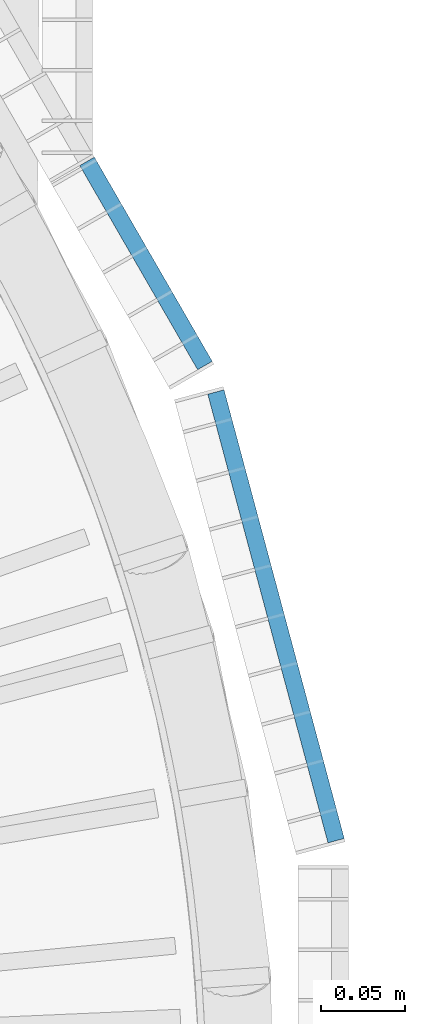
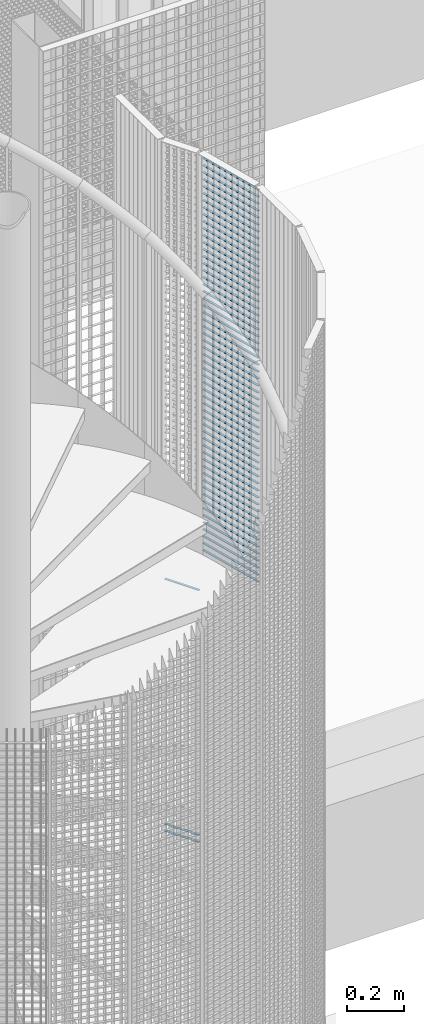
# One storey, part 264 of 1148: 60 beams, 2 elements without a shape of their own.
"""IFC2X3 building model written with IfcOpenShell, lengths in millimetres."""

import ifcopenshell
import ifcopenshell.guid

model = None  # the IFC model being written
_history = None  # IfcOwnerHistory: only IFC2X3 demands one
_inside = {}  # id of a spatial element -> (the spatial element, [elements in it])
_under = {}  # id of a project, library or spatial element -> (it, [spatial elements below it])
_declared = {}  # id of a project -> (the project, [libraries it declares])
_typed = {}  # id of a type object -> (the type object, [elements of that type])
_made_of = {}  # id of a material, layer set ... -> (it, [elements and type objects made of it])


def new_model(schema):
    """Start an empty IFC model of exactly this schema.

    Asked for "IFC4X3", IfcOpenShell would pick the latest addendum, in which some entities
    have other attributes; the version numbers below select the first issue.
    IFC2X3 requires an IfcOwnerHistory on every rooted entity: one is made here for all.
    """
    global model, _history
    if schema == "IFC4X3":
        model = ifcopenshell.file(schema_version=(4, 3, 0, 0))
    else:
        model = ifcopenshell.file(schema=schema)
    _inside.clear()
    _under.clear()
    _declared.clear()
    _typed.clear()
    _made_of.clear()
    _history = None
    if model.schema == "IFC2X3":
        org = make("IfcOrganization", Name="unknown")
        user = make(
            "IfcPersonAndOrganization",
            ThePerson=make("IfcPerson", FamilyName="unknown"),
            TheOrganization=org,
        )
        app = make(
            "IfcApplication",
            ApplicationDeveloper=org,
            Version="unknown",
            ApplicationFullName="unknown",
            ApplicationIdentifier="unknown",
        )
        _history = make(
            "IfcOwnerHistory",
            OwningUser=user,
            OwningApplication=app,
            ChangeAction="ADDED",
            CreationDate=0,
        )
    return model


def make(cls, **values):
    """One entity of the class cls with the attributes given. An attribute that is None is left unset."""
    return model.create_entity(
        cls, **{name: value for name, value in values.items() if value is not None}
    )


def rooted(cls, **values):
    """An entity with a GlobalId (a new one), such as an element, a storey or a relation."""
    return make(cls, GlobalId=ifcopenshell.guid.new(), OwnerHistory=_history, **values)


def si_unit(unit_type, name, prefix=None):
    """IfcSIUnit, for example si_unit("LENGTHUNIT", "METRE", prefix="MILLI")."""
    return make("IfcSIUnit", UnitType=unit_type, Prefix=prefix, Name=name)


def assignment(units):
    """IfcUnitAssignment: the units of a project."""
    return None if units is None else make("IfcUnitAssignment", Units=units)


def point(xyz):
    """IfcCartesianPoint."""
    return None if xyz is None else make("IfcCartesianPoint", Coordinates=xyz)


def direction(xyz):
    """IfcDirection."""
    return None if xyz is None else make("IfcDirection", DirectionRatios=xyz)


def frame(location, z_axis=None, x_axis=None):
    """IfcAxis2Placement3D, a coordinate frame: its origin and axes. An axis left out is left unset."""
    return make(
        "IfcAxis2Placement3D",
        Location=point(location),
        Axis=direction(z_axis),
        RefDirection=direction(x_axis),
    )


def frame_2d(location, x_axis=None):
    """IfcAxis2Placement2D, a coordinate frame in the plane: its origin and x axis."""
    return make(
        "IfcAxis2Placement2D", Location=point(location), RefDirection=direction(x_axis)
    )


def origin_with_axes():
    """The frame at (0, 0, 0) with the z axis (0, 0, 1) and the x axis (1, 0, 0) written out."""
    return frame((0.0, 0.0, 0.0), z_axis=(0.0, 0.0, 1.0), x_axis=(1.0, 0.0, 0.0))


def origin_2d_with_axis():
    """The frame at (0, 0) in the plane with the x axis (1, 0) written out."""
    return frame_2d((0.0, 0.0), x_axis=(1.0, 0.0))


def place(relative_to, where):
    """IfcLocalPlacement: puts the frame where relative to a parent placement (None: the world)."""
    return make(
        "IfcLocalPlacement", PlacementRelTo=relative_to, RelativePlacement=where
    )


def context(
    kind, dimensions, precision=None, world=None, true_north=None, identifier=None
):
    """IfcGeometricRepresentationContext, for example the 3D "Model" context."""
    return make(
        "IfcGeometricRepresentationContext",
        ContextIdentifier=identifier,
        ContextType=kind,
        CoordinateSpaceDimension=dimensions,
        Precision=precision,
        WorldCoordinateSystem=world,
        TrueNorth=true_north,
    )


def subcontext(parent, identifier, kind, view, scale=None):
    """IfcGeometricRepresentationSubContext, for example "Body" below "Model"."""
    return make(
        "IfcGeometricRepresentationSubContext",
        ContextIdentifier=identifier,
        ContextType=kind,
        ParentContext=parent,
        TargetScale=scale,
        TargetView=view,
    )


def project(units=None, contexts=None):
    """IfcProject with its units and contexts."""
    return rooted(
        "IfcProject",
        Name="project",
        RepresentationContexts=contexts,
        UnitsInContext=assignment(units),
    )


def spatial(cls, under=None, at=None, **own):
    """A site, building, storey or space (cls), placed at a placement, below another one or the project."""
    s = rooted(cls, ObjectPlacement=at, **own)
    if under is not None:
        _under.setdefault(under.id(), (under, []))[1].append(s)
    return s


def profile(cls, at=None, kind="AREA", **sizes):
    """A parametric profile (cls). Its sizes go by their IFC names, for example OverallWidth=200.0."""
    return make(cls, ProfileType=kind, Position=at, **sizes)


def rectangle(**sizes):
    """IfcRectangleProfileDef."""
    return profile("IfcRectangleProfileDef", **sizes)


def extrude(swept, where, along, depth):
    """IfcExtrudedAreaSolid: the profile swept, set in the frame where, extruded along a direction by depth."""
    return make(
        "IfcExtrudedAreaSolid",
        SweptArea=swept,
        Position=where,
        ExtrudedDirection=direction(along),
        Depth=depth,
    )


def shape(context_of_items, identifier, shape_type, items):
    """IfcShapeRepresentation: the items that make up one representation, for example the "Body"."""
    return make(
        "IfcShapeRepresentation",
        ContextOfItems=context_of_items,
        RepresentationIdentifier=identifier,
        RepresentationType=shape_type,
        Items=items,
    )


def material(Name=None, Category=None):
    """IfcMaterial."""
    return make("IfcMaterial", Name=Name, Category=Category)


def made_of(thing, what):
    """Note that an element or type object is made of a material, layer set ...; save() writes the relation."""
    if what is not None:
        _made_of.setdefault(what.id(), (what, []))[1].append(thing)
    return thing


def type_object(cls, material=None, **own):
    """A type object (cls), such as IfcWallType, which elements share."""
    return made_of(rooted(cls, **own), material)


def element(
    cls,
    number,
    at=None,
    inside=None,
    cuts=None,
    type_object=None,
    material=None,
    context=None,
    identifier="Body",
    shape_type=None,
    held_by="IfcProductDefinitionShape",
    body=None,
    shapes=None,
    **own,
):
    """One element of the class cls, such as IfcWall. Its Tag is "e" and its number.

    at: its placement. inside: the storey or other place that contains it. cuts: it is an
    opening in that element (IfcRelVoidsElement). A single representation is given by context,
    identifier, shape_type and body (its items); several are given by shapes. held_by: the class
    of the entity that holds the representations. save() writes the other relations.
    """
    e = rooted(cls, Tag="e%d" % number, ObjectPlacement=at, **own)
    if body is not None:
        shapes = [shape(context, identifier, shape_type, body)]
    if shapes is not None:
        e.Representation = make(held_by, Representations=shapes)
    if inside is not None:
        _inside.setdefault(inside.id(), (inside, []))[1].append(e)
    if cuts is not None:
        rooted(
            "IfcRelVoidsElement", RelatingBuildingElement=cuts, RelatedOpeningElement=e
        )
    if type_object is not None:
        _typed.setdefault(type_object.id(), (type_object, []))[1].append(e)
    return made_of(e, material)


def aggregate(whole, parts):
    """IfcRelAggregates: a whole, such as a stair, and the parts it consists of."""
    return rooted("IfcRelAggregates", RelatingObject=whole, RelatedObjects=parts)


def save(model, path):
    """Write the relations noted so far, then the file.

    IfcRelAggregates (storeys below a building ...), IfcRelContainedInSpatialStructure (elements
    in a storey), IfcRelDefinesByType, IfcRelAssociatesMaterial and IfcRelDeclares: one each for
    every whole, place, type object, material and project.
    """
    for whole, parts in _under.values():
        aggregate(whole, parts)
    for where, things in _inside.values():
        rooted(
            "IfcRelContainedInSpatialStructure",
            RelatedElements=things,
            RelatingStructure=where,
        )
    for kind, things in _typed.values():
        rooted("IfcRelDefinesByType", RelatedObjects=things, RelatingType=kind)
    for what, things in _made_of.values():
        rooted("IfcRelAssociatesMaterial", RelatedObjects=things, RelatingMaterial=what)
    for by, libraries in _declared.values():
        rooted("IfcRelDeclares", RelatingContext=by, RelatedDefinitions=libraries)
    model.write(path)


model = new_model("IFC2X3")

# Units and contexts
model_context = context("Model", 3, precision=1e-05, world=origin_with_axes())
body_context = subcontext(model_context, "Body", "Model", "MODEL_VIEW")
ifc_project = project(units=[si_unit("LENGTHUNIT", "METRE", prefix="MILLI"), si_unit("AREAUNIT", "SQUARE_METRE"), si_unit("VOLUMEUNIT", "CUBIC_METRE"), si_unit("MASSUNIT", "GRAM", prefix="KILO"), si_unit("TIMEUNIT", "SECOND"), si_unit("PLANEANGLEUNIT", "RADIAN"), si_unit("SOLIDANGLEUNIT", "STERADIAN"), si_unit("THERMODYNAMICTEMPERATUREUNIT", "DEGREE_CELSIUS"), si_unit("LUMINOUSINTENSITYUNIT", "LUMEN")], contexts=[model_context])

# Site, building, storey
site_placement = place(None, origin_with_axes())
site = spatial("IfcSite", under=ifc_project, at=site_placement, Name="Undefined", CompositionType="ELEMENT")
building_placement = place(site_placement, origin_with_axes())
building = spatial("IfcBuilding", under=site, at=building_placement, Name="Undefined", CompositionType="ELEMENT")
storey_placement = place(building_placement, origin_with_axes())
storey = spatial("IfcBuildingStorey", under=building, at=storey_placement, Name="Undefined", CompositionType="ELEMENT", Elevation=0.0)

# Assembly, beams
assembly_1_placement = place(storey_placement, origin_with_axes())
assembly_1 = element("IfcElementAssembly", 1, at=assembly_1_placement, inside=storey, Name="BORDURE", AssemblyPlace="NOTDEFINED", PredefinedType="NOTDEFINED")
ifc_material = material(Name="STEEL/S235JR")
beam_type = type_object("IfcBeamType", Name="PL2*10", PredefinedType="NOTDEFINED")
beam_1_placement = place(assembly_1_placement, frame((1033.2999428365, 437.231999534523, 15060.0), z_axis=(0.866030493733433, 0.499991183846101, 0.0), x_axis=(-0.499991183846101, 0.866030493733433, 0.0)))
beam_1 = element("IfcBeam", 2, at=beam_1_placement, type_object=beam_type, material=ifc_material, Name="ENTRETOISE", context=body_context, shape_type="SweptSolid", body=[
    extrude(rectangle(XDim=2.0, YDim=10.0, at=origin_2d_with_axis()), frame((140.102470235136, 0.0, 0.0), z_axis=(-1.0, 0.0, 0.0), x_axis=(0.0, -1.0, 0.0)), (0.0, 0.0, 1.0), 140.1),
])
beam_2_placement = place(assembly_1_placement, frame((1033.29994283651, 437.23199953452, 16110.0), z_axis=(0.866030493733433, 0.499991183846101, 0.0), x_axis=(-0.499991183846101, 0.866030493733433, 0.0)))
beam_2 = element("IfcBeam", 3, at=beam_2_placement, type_object=beam_type, material=ifc_material, Name="ENTRETOISE", context=body_context, shape_type="SweptSolid", body=[
    extrude(rectangle(XDim=2.0, YDim=10.0, at=origin_2d_with_axis()), frame((140.102470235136, 0.0, 0.0), z_axis=(-1.0, 0.0, 0.0), x_axis=(0.0, -1.0, 0.0)), (0.0, 0.0, 1.0), 140.1),
])
beam_3_placement = place(assembly_1_placement, frame((1033.2999428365, 437.231999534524, 15030.0), z_axis=(0.866030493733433, 0.499991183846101, 0.0), x_axis=(-0.499991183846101, 0.866030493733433, 0.0)))
beam_3 = element("IfcBeam", 4, at=beam_3_placement, type_object=beam_type, material=ifc_material, Name="ENTRETOISE", context=body_context, shape_type="SweptSolid", body=[
    extrude(rectangle(XDim=2.0, YDim=10.0, at=origin_2d_with_axis()), frame((140.102470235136, 0.0, 0.0), z_axis=(-1.0, 0.0, 0.0), x_axis=(0.0, -1.0, 0.0)), (0.0, 0.0, 1.0), 140.1),
])
aggregate(assembly_1, [beam_1, beam_2, beam_3])

assembly_2_placement = place(storey_placement, origin_with_axes())
assembly_2 = element("IfcElementAssembly", 5, at=assembly_2_placement, inside=storey, Name="BORDURE", AssemblyPlace="NOTDEFINED", PredefinedType="NOTDEFINED")
beam_4_placement = place(assembly_2_placement, frame((1111.25508286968, 154.895926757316, 17970.0), z_axis=(0.965925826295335, 0.258819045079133, 0.0), x_axis=(-0.258819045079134, 0.965925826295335, 0.0)))
beam_4 = element("IfcBeam", 6, at=beam_4_placement, type_object=beam_type, material=ifc_material, Name="ENTRETOISE", context=body_context, shape_type="SweptSolid", body=[
    extrude(rectangle(XDim=2.0, YDim=10.0, at=origin_2d_with_axis()), frame((275.999999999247, 9.09494701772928e-13, 1.53210777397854e-14), z_axis=(-1.0, 0.0, 0.0), x_axis=(0.0, -1.0, 0.0)), (0.0, 0.0, 1.0), 276.0),
])
beam_5_placement = place(assembly_2_placement, frame((1111.25508286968, 154.895926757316, 17940.0), z_axis=(0.965925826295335, 0.258819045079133, 0.0), x_axis=(-0.258819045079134, 0.965925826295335, 0.0)))
beam_5 = element("IfcBeam", 7, at=beam_5_placement, type_object=beam_type, material=ifc_material, Name="ENTRETOISE", context=body_context, shape_type="SweptSolid", body=[
    extrude(rectangle(XDim=2.0, YDim=10.0, at=origin_2d_with_axis()), frame((275.999999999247, 9.09494701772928e-13, 1.53210777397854e-14), z_axis=(-1.0, 0.0, 0.0), x_axis=(0.0, -1.0, 0.0)), (0.0, 0.0, 1.0), 276.0),
])
beam_6_placement = place(assembly_2_placement, frame((1111.25508286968, 154.895926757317, 17910.0), z_axis=(0.965925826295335, 0.258819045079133, 0.0), x_axis=(-0.258819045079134, 0.965925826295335, 0.0)))
beam_6 = element("IfcBeam", 8, at=beam_6_placement, type_object=beam_type, material=ifc_material, Name="ENTRETOISE", context=body_context, shape_type="SweptSolid", body=[
    extrude(rectangle(XDim=2.0, YDim=10.0, at=origin_2d_with_axis()), frame((275.999999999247, 9.09494701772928e-13, 1.53210777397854e-14), z_axis=(-1.0, 0.0, 0.0), x_axis=(0.0, -1.0, 0.0)), (0.0, 0.0, 1.0), 276.0),
])
beam_7_placement = place(assembly_2_placement, frame((1111.25508286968, 154.895926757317, 17880.0), z_axis=(0.965925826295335, 0.258819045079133, 0.0), x_axis=(-0.258819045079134, 0.965925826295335, 0.0)))
beam_7 = element("IfcBeam", 9, at=beam_7_placement, type_object=beam_type, material=ifc_material, Name="ENTRETOISE", context=body_context, shape_type="SweptSolid", body=[
    extrude(rectangle(XDim=2.0, YDim=10.0, at=origin_2d_with_axis()), frame((275.999999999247, 9.09494701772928e-13, 1.53210777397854e-14), z_axis=(-1.0, 0.0, 0.0), x_axis=(0.0, -1.0, 0.0)), (0.0, 0.0, 1.0), 276.0),
])
beam_8_placement = place(assembly_2_placement, frame((1111.25508286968, 154.895926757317, 17850.0), z_axis=(0.965925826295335, 0.258819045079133, 0.0), x_axis=(-0.258819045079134, 0.965925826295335, 0.0)))
beam_8 = element("IfcBeam", 10, at=beam_8_placement, type_object=beam_type, material=ifc_material, Name="ENTRETOISE", context=body_context, shape_type="SweptSolid", body=[
    extrude(rectangle(XDim=2.0, YDim=10.0, at=origin_2d_with_axis()), frame((275.999999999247, 9.09494701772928e-13, 1.53210777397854e-14), z_axis=(-1.0, 0.0, 0.0), x_axis=(0.0, -1.0, 0.0)), (0.0, 0.0, 1.0), 276.0),
])
beam_9_placement = place(assembly_2_placement, frame((1111.25508286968, 154.895926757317, 17820.0), z_axis=(0.965925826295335, 0.258819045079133, 0.0), x_axis=(-0.258819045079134, 0.965925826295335, 0.0)))
beam_9 = element("IfcBeam", 11, at=beam_9_placement, type_object=beam_type, material=ifc_material, Name="ENTRETOISE", context=body_context, shape_type="SweptSolid", body=[
    extrude(rectangle(XDim=2.0, YDim=10.0, at=origin_2d_with_axis()), frame((275.999999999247, 9.09494701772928e-13, 1.53210777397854e-14), z_axis=(-1.0, 0.0, 0.0), x_axis=(0.0, -1.0, 0.0)), (0.0, 0.0, 1.0), 276.0),
])
beam_10_placement = place(assembly_2_placement, frame((1111.25508286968, 154.895926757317, 17790.0), z_axis=(0.965925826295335, 0.258819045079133, 0.0), x_axis=(-0.258819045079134, 0.965925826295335, 0.0)))
beam_10 = element("IfcBeam", 12, at=beam_10_placement, type_object=beam_type, material=ifc_material, Name="ENTRETOISE", context=body_context, shape_type="SweptSolid", body=[
    extrude(rectangle(XDim=2.0, YDim=10.0, at=origin_2d_with_axis()), frame((275.999999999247, 9.09494701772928e-13, 1.53210777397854e-14), z_axis=(-1.0, 0.0, 0.0), x_axis=(0.0, -1.0, 0.0)), (0.0, 0.0, 1.0), 276.0),
])
beam_11_placement = place(assembly_2_placement, frame((1111.25508286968, 154.895926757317, 17760.0), z_axis=(0.965925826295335, 0.258819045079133, 0.0), x_axis=(-0.258819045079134, 0.965925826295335, 0.0)))
beam_11 = element("IfcBeam", 13, at=beam_11_placement, type_object=beam_type, material=ifc_material, Name="ENTRETOISE", context=body_context, shape_type="SweptSolid", body=[
    extrude(rectangle(XDim=2.0, YDim=10.0, at=origin_2d_with_axis()), frame((275.999999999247, 9.09494701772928e-13, 1.53210777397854e-14), z_axis=(-1.0, 0.0, 0.0), x_axis=(0.0, -1.0, 0.0)), (0.0, 0.0, 1.0), 276.0),
])
beam_12_placement = place(assembly_2_placement, frame((1111.25508286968, 154.895926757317, 17730.0), z_axis=(0.965925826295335, 0.258819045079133, 0.0), x_axis=(-0.258819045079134, 0.965925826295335, 0.0)))
beam_12 = element("IfcBeam", 14, at=beam_12_placement, type_object=beam_type, material=ifc_material, Name="ENTRETOISE", context=body_context, shape_type="SweptSolid", body=[
    extrude(rectangle(XDim=2.0, YDim=10.0, at=origin_2d_with_axis()), frame((275.999999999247, 9.09494701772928e-13, 1.53210777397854e-14), z_axis=(-1.0, 0.0, 0.0), x_axis=(0.0, -1.0, 0.0)), (0.0, 0.0, 1.0), 276.0),
])
beam_13_placement = place(assembly_2_placement, frame((1111.25508286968, 154.895926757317, 17700.0), z_axis=(0.965925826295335, 0.258819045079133, 0.0), x_axis=(-0.258819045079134, 0.965925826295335, 0.0)))
beam_13 = element("IfcBeam", 15, at=beam_13_placement, type_object=beam_type, material=ifc_material, Name="ENTRETOISE", context=body_context, shape_type="SweptSolid", body=[
    extrude(rectangle(XDim=2.0, YDim=10.0, at=origin_2d_with_axis()), frame((275.999999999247, 9.09494701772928e-13, 1.53210777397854e-14), z_axis=(-1.0, 0.0, 0.0), x_axis=(0.0, -1.0, 0.0)), (0.0, 0.0, 1.0), 276.0),
])
beam_14_placement = place(assembly_2_placement, frame((1111.25508286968, 154.895926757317, 17670.0), z_axis=(0.965925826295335, 0.258819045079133, 0.0), x_axis=(-0.258819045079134, 0.965925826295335, 0.0)))
beam_14 = element("IfcBeam", 16, at=beam_14_placement, type_object=beam_type, material=ifc_material, Name="ENTRETOISE", context=body_context, shape_type="SweptSolid", body=[
    extrude(rectangle(XDim=2.0, YDim=10.0, at=origin_2d_with_axis()), frame((275.999999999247, 9.09494701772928e-13, 1.53210777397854e-14), z_axis=(-1.0, 0.0, 0.0), x_axis=(0.0, -1.0, 0.0)), (0.0, 0.0, 1.0), 276.0),
])
beam_15_placement = place(assembly_2_placement, frame((1111.25508286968, 154.895926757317, 17640.0), z_axis=(0.965925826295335, 0.258819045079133, 0.0), x_axis=(-0.258819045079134, 0.965925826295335, 0.0)))
beam_15 = element("IfcBeam", 17, at=beam_15_placement, type_object=beam_type, material=ifc_material, Name="ENTRETOISE", context=body_context, shape_type="SweptSolid", body=[
    extrude(rectangle(XDim=2.0, YDim=10.0, at=origin_2d_with_axis()), frame((275.999999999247, 9.09494701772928e-13, 1.53210777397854e-14), z_axis=(-1.0, 0.0, 0.0), x_axis=(0.0, -1.0, 0.0)), (0.0, 0.0, 1.0), 276.0),
])
beam_16_placement = place(assembly_2_placement, frame((1111.25508286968, 154.895926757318, 17610.0), z_axis=(0.965925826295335, 0.258819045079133, 0.0), x_axis=(-0.258819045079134, 0.965925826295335, 0.0)))
beam_16 = element("IfcBeam", 18, at=beam_16_placement, type_object=beam_type, material=ifc_material, Name="ENTRETOISE", context=body_context, shape_type="SweptSolid", body=[
    extrude(rectangle(XDim=2.0, YDim=10.0, at=origin_2d_with_axis()), frame((275.999999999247, 9.09494701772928e-13, 1.53210777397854e-14), z_axis=(-1.0, 0.0, 0.0), x_axis=(0.0, -1.0, 0.0)), (0.0, 0.0, 1.0), 276.0),
])
beam_17_placement = place(assembly_2_placement, frame((1111.25508286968, 154.895926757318, 17580.0), z_axis=(0.965925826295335, 0.258819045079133, 0.0), x_axis=(-0.258819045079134, 0.965925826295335, 0.0)))
beam_17 = element("IfcBeam", 19, at=beam_17_placement, type_object=beam_type, material=ifc_material, Name="ENTRETOISE", context=body_context, shape_type="SweptSolid", body=[
    extrude(rectangle(XDim=2.0, YDim=10.0, at=origin_2d_with_axis()), frame((275.999999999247, 9.09494701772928e-13, 1.53210777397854e-14), z_axis=(-1.0, 0.0, 0.0), x_axis=(0.0, -1.0, 0.0)), (0.0, 0.0, 1.0), 276.0),
])
beam_18_placement = place(assembly_2_placement, frame((1111.25508286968, 154.895926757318, 17550.0), z_axis=(0.965925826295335, 0.258819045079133, 0.0), x_axis=(-0.258819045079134, 0.965925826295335, 0.0)))
beam_18 = element("IfcBeam", 20, at=beam_18_placement, type_object=beam_type, material=ifc_material, Name="ENTRETOISE", context=body_context, shape_type="SweptSolid", body=[
    extrude(rectangle(XDim=2.0, YDim=10.0, at=origin_2d_with_axis()), frame((275.999999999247, 9.09494701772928e-13, 1.53210777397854e-14), z_axis=(-1.0, 0.0, 0.0), x_axis=(0.0, -1.0, 0.0)), (0.0, 0.0, 1.0), 276.0),
])
beam_19_placement = place(assembly_2_placement, frame((1111.25508286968, 154.895926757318, 17520.0), z_axis=(0.965925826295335, 0.258819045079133, 0.0), x_axis=(-0.258819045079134, 0.965925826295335, 0.0)))
beam_19 = element("IfcBeam", 21, at=beam_19_placement, type_object=beam_type, material=ifc_material, Name="ENTRETOISE", context=body_context, shape_type="SweptSolid", body=[
    extrude(rectangle(XDim=2.0, YDim=10.0, at=origin_2d_with_axis()), frame((275.999999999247, 9.09494701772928e-13, 1.53210777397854e-14), z_axis=(-1.0, 0.0, 0.0), x_axis=(0.0, -1.0, 0.0)), (0.0, 0.0, 1.0), 276.0),
])
beam_20_placement = place(assembly_2_placement, frame((1111.25508286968, 154.895926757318, 17490.0), z_axis=(0.965925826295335, 0.258819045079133, 0.0), x_axis=(-0.258819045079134, 0.965925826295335, 0.0)))
beam_20 = element("IfcBeam", 22, at=beam_20_placement, type_object=beam_type, material=ifc_material, Name="ENTRETOISE", context=body_context, shape_type="SweptSolid", body=[
    extrude(rectangle(XDim=2.0, YDim=10.0, at=origin_2d_with_axis()), frame((275.999999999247, 9.09494701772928e-13, 1.53210777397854e-14), z_axis=(-1.0, 0.0, 0.0), x_axis=(0.0, -1.0, 0.0)), (0.0, 0.0, 1.0), 276.0),
])
beam_21_placement = place(assembly_2_placement, frame((1111.25508286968, 154.895926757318, 17460.0), z_axis=(0.965925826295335, 0.258819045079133, 0.0), x_axis=(-0.258819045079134, 0.965925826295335, 0.0)))
beam_21 = element("IfcBeam", 23, at=beam_21_placement, type_object=beam_type, material=ifc_material, Name="ENTRETOISE", context=body_context, shape_type="SweptSolid", body=[
    extrude(rectangle(XDim=2.0, YDim=10.0, at=origin_2d_with_axis()), frame((275.999999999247, 9.09494701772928e-13, 1.53210777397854e-14), z_axis=(-1.0, 0.0, 0.0), x_axis=(0.0, -1.0, 0.0)), (0.0, 0.0, 1.0), 276.0),
])
beam_22_placement = place(assembly_2_placement, frame((1111.25508286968, 154.895926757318, 17430.0), z_axis=(0.965925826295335, 0.258819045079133, 0.0), x_axis=(-0.258819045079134, 0.965925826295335, 0.0)))
beam_22 = element("IfcBeam", 24, at=beam_22_placement, type_object=beam_type, material=ifc_material, Name="ENTRETOISE", context=body_context, shape_type="SweptSolid", body=[
    extrude(rectangle(XDim=2.0, YDim=10.0, at=origin_2d_with_axis()), frame((275.999999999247, 9.09494701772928e-13, 1.53210777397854e-14), z_axis=(-1.0, 0.0, 0.0), x_axis=(0.0, -1.0, 0.0)), (0.0, 0.0, 1.0), 276.0),
])
beam_23_placement = place(assembly_2_placement, frame((1111.25508286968, 154.895926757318, 17400.0), z_axis=(0.965925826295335, 0.258819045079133, 0.0), x_axis=(-0.258819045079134, 0.965925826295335, 0.0)))
beam_23 = element("IfcBeam", 25, at=beam_23_placement, type_object=beam_type, material=ifc_material, Name="ENTRETOISE", context=body_context, shape_type="SweptSolid", body=[
    extrude(rectangle(XDim=2.0, YDim=10.0, at=origin_2d_with_axis()), frame((275.999999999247, 9.09494701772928e-13, 1.53210777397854e-14), z_axis=(-1.0, 0.0, 0.0), x_axis=(0.0, -1.0, 0.0)), (0.0, 0.0, 1.0), 276.0),
])
beam_24_placement = place(assembly_2_placement, frame((1111.25508286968, 154.895926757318, 17370.0), z_axis=(0.965925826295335, 0.258819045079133, 0.0), x_axis=(-0.258819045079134, 0.965925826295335, 0.0)))
beam_24 = element("IfcBeam", 26, at=beam_24_placement, type_object=beam_type, material=ifc_material, Name="ENTRETOISE", context=body_context, shape_type="SweptSolid", body=[
    extrude(rectangle(XDim=2.0, YDim=10.0, at=origin_2d_with_axis()), frame((275.999999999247, 9.09494701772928e-13, 1.53210777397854e-14), z_axis=(-1.0, 0.0, 0.0), x_axis=(0.0, -1.0, 0.0)), (0.0, 0.0, 1.0), 276.0),
])
beam_25_placement = place(assembly_2_placement, frame((1111.25508286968, 154.895926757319, 17340.0), z_axis=(0.965925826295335, 0.258819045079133, 0.0), x_axis=(-0.258819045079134, 0.965925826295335, 0.0)))
beam_25 = element("IfcBeam", 27, at=beam_25_placement, type_object=beam_type, material=ifc_material, Name="ENTRETOISE", context=body_context, shape_type="SweptSolid", body=[
    extrude(rectangle(XDim=2.0, YDim=10.0, at=origin_2d_with_axis()), frame((275.999999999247, 9.09494701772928e-13, 1.53210777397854e-14), z_axis=(-1.0, 0.0, 0.0), x_axis=(0.0, -1.0, 0.0)), (0.0, 0.0, 1.0), 276.0),
])
beam_26_placement = place(assembly_2_placement, frame((1111.25508286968, 154.895926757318, 17310.0), z_axis=(0.965925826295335, 0.258819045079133, 0.0), x_axis=(-0.258819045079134, 0.965925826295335, 0.0)))
beam_26 = element("IfcBeam", 28, at=beam_26_placement, type_object=beam_type, material=ifc_material, Name="ENTRETOISE", context=body_context, shape_type="SweptSolid", body=[
    extrude(rectangle(XDim=2.0, YDim=10.0, at=origin_2d_with_axis()), frame((275.999999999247, 9.09494701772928e-13, 1.53210777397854e-14), z_axis=(-1.0, 0.0, 0.0), x_axis=(0.0, -1.0, 0.0)), (0.0, 0.0, 1.0), 276.0),
])
beam_27_placement = place(assembly_2_placement, frame((1111.25508286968, 154.895926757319, 17280.0), z_axis=(0.965925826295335, 0.258819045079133, 0.0), x_axis=(-0.258819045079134, 0.965925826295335, 0.0)))
beam_27 = element("IfcBeam", 29, at=beam_27_placement, type_object=beam_type, material=ifc_material, Name="ENTRETOISE", context=body_context, shape_type="SweptSolid", body=[
    extrude(rectangle(XDim=2.0, YDim=10.0, at=origin_2d_with_axis()), frame((275.999999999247, 9.09494701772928e-13, 1.53210777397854e-14), z_axis=(-1.0, 0.0, 0.0), x_axis=(0.0, -1.0, 0.0)), (0.0, 0.0, 1.0), 276.0),
])
beam_28_placement = place(assembly_2_placement, frame((1111.25508286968, 154.895926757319, 17250.0), z_axis=(0.965925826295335, 0.258819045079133, 0.0), x_axis=(-0.258819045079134, 0.965925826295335, 0.0)))
beam_28 = element("IfcBeam", 30, at=beam_28_placement, type_object=beam_type, material=ifc_material, Name="ENTRETOISE", context=body_context, shape_type="SweptSolid", body=[
    extrude(rectangle(XDim=2.0, YDim=10.0, at=origin_2d_with_axis()), frame((275.999999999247, 9.09494701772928e-13, 1.53210777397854e-14), z_axis=(-1.0, 0.0, 0.0), x_axis=(0.0, -1.0, 0.0)), (0.0, 0.0, 1.0), 276.0),
])
beam_29_placement = place(assembly_2_placement, frame((1111.25508286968, 154.895926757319, 17220.0), z_axis=(0.965925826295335, 0.258819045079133, 0.0), x_axis=(-0.258819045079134, 0.965925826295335, 0.0)))
beam_29 = element("IfcBeam", 31, at=beam_29_placement, type_object=beam_type, material=ifc_material, Name="ENTRETOISE", context=body_context, shape_type="SweptSolid", body=[
    extrude(rectangle(XDim=2.0, YDim=10.0, at=origin_2d_with_axis()), frame((275.999999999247, 9.09494701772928e-13, 1.53210777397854e-14), z_axis=(-1.0, 0.0, 0.0), x_axis=(0.0, -1.0, 0.0)), (0.0, 0.0, 1.0), 276.0),
])
beam_30_placement = place(assembly_2_placement, frame((1111.25508286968, 154.895926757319, 17190.0), z_axis=(0.965925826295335, 0.258819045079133, 0.0), x_axis=(-0.258819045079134, 0.965925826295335, 0.0)))
beam_30 = element("IfcBeam", 32, at=beam_30_placement, type_object=beam_type, material=ifc_material, Name="ENTRETOISE", context=body_context, shape_type="SweptSolid", body=[
    extrude(rectangle(XDim=2.0, YDim=10.0, at=origin_2d_with_axis()), frame((275.999999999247, 9.09494701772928e-13, 1.53210777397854e-14), z_axis=(-1.0, 0.0, 0.0), x_axis=(0.0, -1.0, 0.0)), (0.0, 0.0, 1.0), 276.0),
])
beam_31_placement = place(assembly_2_placement, frame((1111.25508286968, 154.895926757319, 17160.0), z_axis=(0.965925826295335, 0.258819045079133, 0.0), x_axis=(-0.258819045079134, 0.965925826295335, 0.0)))
beam_31 = element("IfcBeam", 33, at=beam_31_placement, type_object=beam_type, material=ifc_material, Name="ENTRETOISE", context=body_context, shape_type="SweptSolid", body=[
    extrude(rectangle(XDim=2.0, YDim=10.0, at=origin_2d_with_axis()), frame((275.999999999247, 9.09494701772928e-13, 1.53210777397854e-14), z_axis=(-1.0, 0.0, 0.0), x_axis=(0.0, -1.0, 0.0)), (0.0, 0.0, 1.0), 276.0),
])
beam_32_placement = place(assembly_2_placement, frame((1111.25508286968, 154.895926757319, 17130.0), z_axis=(0.965925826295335, 0.258819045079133, 0.0), x_axis=(-0.258819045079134, 0.965925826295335, 0.0)))
beam_32 = element("IfcBeam", 34, at=beam_32_placement, type_object=beam_type, material=ifc_material, Name="ENTRETOISE", context=body_context, shape_type="SweptSolid", body=[
    extrude(rectangle(XDim=2.0, YDim=10.0, at=origin_2d_with_axis()), frame((275.999999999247, 9.09494701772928e-13, 1.53210777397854e-14), z_axis=(-1.0, 0.0, 0.0), x_axis=(0.0, -1.0, 0.0)), (0.0, 0.0, 1.0), 276.0),
])
beam_33_placement = place(assembly_2_placement, frame((1111.25508286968, 154.895926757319, 17100.0), z_axis=(0.965925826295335, 0.258819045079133, 0.0), x_axis=(-0.258819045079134, 0.965925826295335, 0.0)))
beam_33 = element("IfcBeam", 35, at=beam_33_placement, type_object=beam_type, material=ifc_material, Name="ENTRETOISE", context=body_context, shape_type="SweptSolid", body=[
    extrude(rectangle(XDim=2.0, YDim=10.0, at=origin_2d_with_axis()), frame((275.999999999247, 9.09494701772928e-13, 1.53210777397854e-14), z_axis=(-1.0, 0.0, 0.0), x_axis=(0.0, -1.0, 0.0)), (0.0, 0.0, 1.0), 276.0),
])
beam_34_placement = place(assembly_2_placement, frame((1111.25508286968, 154.895926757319, 17070.0), z_axis=(0.965925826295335, 0.258819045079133, 0.0), x_axis=(-0.258819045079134, 0.965925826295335, 0.0)))
beam_34 = element("IfcBeam", 36, at=beam_34_placement, type_object=beam_type, material=ifc_material, Name="ENTRETOISE", context=body_context, shape_type="SweptSolid", body=[
    extrude(rectangle(XDim=2.0, YDim=10.0, at=origin_2d_with_axis()), frame((275.999999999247, 9.09494701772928e-13, 1.53210777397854e-14), z_axis=(-1.0, 0.0, 0.0), x_axis=(0.0, -1.0, 0.0)), (0.0, 0.0, 1.0), 276.0),
])
beam_35_placement = place(assembly_2_placement, frame((1111.25508286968, 154.89592675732, 17040.0), z_axis=(0.965925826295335, 0.258819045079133, 0.0), x_axis=(-0.258819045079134, 0.965925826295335, 0.0)))
beam_35 = element("IfcBeam", 37, at=beam_35_placement, type_object=beam_type, material=ifc_material, Name="ENTRETOISE", context=body_context, shape_type="SweptSolid", body=[
    extrude(rectangle(XDim=2.0, YDim=10.0, at=origin_2d_with_axis()), frame((275.999999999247, 9.09494701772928e-13, 1.53210777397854e-14), z_axis=(-1.0, 0.0, 0.0), x_axis=(0.0, -1.0, 0.0)), (0.0, 0.0, 1.0), 276.0),
])
beam_36_placement = place(assembly_2_placement, frame((1111.25508286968, 154.89592675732, 17010.0), z_axis=(0.965925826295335, 0.258819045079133, 0.0), x_axis=(-0.258819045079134, 0.965925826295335, 0.0)))
beam_36 = element("IfcBeam", 38, at=beam_36_placement, type_object=beam_type, material=ifc_material, Name="ENTRETOISE", context=body_context, shape_type="SweptSolid", body=[
    extrude(rectangle(XDim=2.0, YDim=10.0, at=origin_2d_with_axis()), frame((275.999999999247, 9.09494701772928e-13, 1.53210777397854e-14), z_axis=(-1.0, 0.0, 0.0), x_axis=(0.0, -1.0, 0.0)), (0.0, 0.0, 1.0), 276.0),
])
beam_37_placement = place(assembly_2_placement, frame((1111.25508286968, 154.89592675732, 16980.0), z_axis=(0.965925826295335, 0.258819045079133, 0.0), x_axis=(-0.258819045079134, 0.965925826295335, 0.0)))
beam_37 = element("IfcBeam", 39, at=beam_37_placement, type_object=beam_type, material=ifc_material, Name="ENTRETOISE", context=body_context, shape_type="SweptSolid", body=[
    extrude(rectangle(XDim=2.0, YDim=10.0, at=origin_2d_with_axis()), frame((275.999999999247, 9.09494701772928e-13, 1.53210777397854e-14), z_axis=(-1.0, 0.0, 0.0), x_axis=(0.0, -1.0, 0.0)), (0.0, 0.0, 1.0), 276.0),
])
beam_38_placement = place(assembly_2_placement, frame((1111.25508286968, 154.89592675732, 16950.0), z_axis=(0.965925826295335, 0.258819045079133, 0.0), x_axis=(-0.258819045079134, 0.965925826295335, 0.0)))
beam_38 = element("IfcBeam", 40, at=beam_38_placement, type_object=beam_type, material=ifc_material, Name="ENTRETOISE", context=body_context, shape_type="SweptSolid", body=[
    extrude(rectangle(XDim=2.0, YDim=10.0, at=origin_2d_with_axis()), frame((275.999999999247, 9.09494701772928e-13, 1.53210777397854e-14), z_axis=(-1.0, 0.0, 0.0), x_axis=(0.0, -1.0, 0.0)), (0.0, 0.0, 1.0), 276.0),
])
beam_39_placement = place(assembly_2_placement, frame((1111.25508286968, 154.89592675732, 16920.0), z_axis=(0.965925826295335, 0.258819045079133, 0.0), x_axis=(-0.258819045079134, 0.965925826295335, 0.0)))
beam_39 = element("IfcBeam", 41, at=beam_39_placement, type_object=beam_type, material=ifc_material, Name="ENTRETOISE", context=body_context, shape_type="SweptSolid", body=[
    extrude(rectangle(XDim=2.0, YDim=10.0, at=origin_2d_with_axis()), frame((275.999999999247, 9.09494701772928e-13, 1.53210777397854e-14), z_axis=(-1.0, 0.0, 0.0), x_axis=(0.0, -1.0, 0.0)), (0.0, 0.0, 1.0), 276.0),
])
beam_40_placement = place(assembly_2_placement, frame((1111.25508286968, 154.89592675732, 16890.0), z_axis=(0.965925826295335, 0.258819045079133, 0.0), x_axis=(-0.258819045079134, 0.965925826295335, 0.0)))
beam_40 = element("IfcBeam", 42, at=beam_40_placement, type_object=beam_type, material=ifc_material, Name="ENTRETOISE", context=body_context, shape_type="SweptSolid", body=[
    extrude(rectangle(XDim=2.0, YDim=10.0, at=origin_2d_with_axis()), frame((275.999999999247, 9.09494701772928e-13, 1.53210777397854e-14), z_axis=(-1.0, 0.0, 0.0), x_axis=(0.0, -1.0, 0.0)), (0.0, 0.0, 1.0), 276.0),
])
beam_41_placement = place(assembly_2_placement, frame((1111.25508286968, 154.89592675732, 16860.0), z_axis=(0.965925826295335, 0.258819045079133, 0.0), x_axis=(-0.258819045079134, 0.965925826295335, 0.0)))
beam_41 = element("IfcBeam", 43, at=beam_41_placement, type_object=beam_type, material=ifc_material, Name="ENTRETOISE", context=body_context, shape_type="SweptSolid", body=[
    extrude(rectangle(XDim=2.0, YDim=10.0, at=origin_2d_with_axis()), frame((275.999999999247, 9.09494701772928e-13, 1.53210777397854e-14), z_axis=(-1.0, 0.0, 0.0), x_axis=(0.0, -1.0, 0.0)), (0.0, 0.0, 1.0), 276.0),
])
beam_42_placement = place(assembly_2_placement, frame((1111.25508286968, 154.89592675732, 16830.0), z_axis=(0.965925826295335, 0.258819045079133, 0.0), x_axis=(-0.258819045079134, 0.965925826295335, 0.0)))
beam_42 = element("IfcBeam", 44, at=beam_42_placement, type_object=beam_type, material=ifc_material, Name="ENTRETOISE", context=body_context, shape_type="SweptSolid", body=[
    extrude(rectangle(XDim=2.0, YDim=10.0, at=origin_2d_with_axis()), frame((275.999999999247, 9.09494701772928e-13, 1.53210777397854e-14), z_axis=(-1.0, 0.0, 0.0), x_axis=(0.0, -1.0, 0.0)), (0.0, 0.0, 1.0), 276.0),
])
beam_43_placement = place(assembly_2_placement, frame((1111.25508286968, 154.89592675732, 16800.0), z_axis=(0.965925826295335, 0.258819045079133, 0.0), x_axis=(-0.258819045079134, 0.965925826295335, 0.0)))
beam_43 = element("IfcBeam", 45, at=beam_43_placement, type_object=beam_type, material=ifc_material, Name="ENTRETOISE", context=body_context, shape_type="SweptSolid", body=[
    extrude(rectangle(XDim=2.0, YDim=10.0, at=origin_2d_with_axis()), frame((275.999999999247, 9.09494701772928e-13, 1.53210777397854e-14), z_axis=(-1.0, 0.0, 0.0), x_axis=(0.0, -1.0, 0.0)), (0.0, 0.0, 1.0), 276.0),
])
beam_44_placement = place(assembly_2_placement, frame((1111.25508286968, 154.89592675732, 16770.0), z_axis=(0.965925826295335, 0.258819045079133, 0.0), x_axis=(-0.258819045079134, 0.965925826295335, 0.0)))
beam_44 = element("IfcBeam", 46, at=beam_44_placement, type_object=beam_type, material=ifc_material, Name="ENTRETOISE", context=body_context, shape_type="SweptSolid", body=[
    extrude(rectangle(XDim=2.0, YDim=10.0, at=origin_2d_with_axis()), frame((275.999999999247, 9.09494701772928e-13, 1.53210777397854e-14), z_axis=(-1.0, 0.0, 0.0), x_axis=(0.0, -1.0, 0.0)), (0.0, 0.0, 1.0), 276.0),
])
beam_45_placement = place(assembly_2_placement, frame((1111.25508286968, 154.89592675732, 16740.0), z_axis=(0.965925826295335, 0.258819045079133, 0.0), x_axis=(-0.258819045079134, 0.965925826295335, 0.0)))
beam_45 = element("IfcBeam", 47, at=beam_45_placement, type_object=beam_type, material=ifc_material, Name="ENTRETOISE", context=body_context, shape_type="SweptSolid", body=[
    extrude(rectangle(XDim=2.0, YDim=10.0, at=origin_2d_with_axis()), frame((275.999999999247, 9.09494701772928e-13, 1.53210777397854e-14), z_axis=(-1.0, 0.0, 0.0), x_axis=(0.0, -1.0, 0.0)), (0.0, 0.0, 1.0), 276.0),
])
beam_46_placement = place(assembly_2_placement, frame((1111.25508286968, 154.895926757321, 16710.0), z_axis=(0.965925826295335, 0.258819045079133, 0.0), x_axis=(-0.258819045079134, 0.965925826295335, 0.0)))
beam_46 = element("IfcBeam", 48, at=beam_46_placement, type_object=beam_type, material=ifc_material, Name="ENTRETOISE", context=body_context, shape_type="SweptSolid", body=[
    extrude(rectangle(XDim=2.0, YDim=10.0, at=origin_2d_with_axis()), frame((275.999999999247, 9.09494701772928e-13, 1.53210777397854e-14), z_axis=(-1.0, 0.0, 0.0), x_axis=(0.0, -1.0, 0.0)), (0.0, 0.0, 1.0), 276.0),
])
beam_47_placement = place(assembly_2_placement, frame((1111.25508286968, 154.895926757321, 16680.0), z_axis=(0.965925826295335, 0.258819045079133, 0.0), x_axis=(-0.258819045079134, 0.965925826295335, 0.0)))
beam_47 = element("IfcBeam", 49, at=beam_47_placement, type_object=beam_type, material=ifc_material, Name="ENTRETOISE", context=body_context, shape_type="SweptSolid", body=[
    extrude(rectangle(XDim=2.0, YDim=10.0, at=origin_2d_with_axis()), frame((275.999999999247, 9.09494701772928e-13, 1.53210777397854e-14), z_axis=(-1.0, 0.0, 0.0), x_axis=(0.0, -1.0, 0.0)), (0.0, 0.0, 1.0), 276.0),
])
beam_48_placement = place(assembly_2_placement, frame((1111.25508286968, 154.895926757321, 16650.0), z_axis=(0.965925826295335, 0.258819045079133, 0.0), x_axis=(-0.258819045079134, 0.965925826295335, 0.0)))
beam_48 = element("IfcBeam", 50, at=beam_48_placement, type_object=beam_type, material=ifc_material, Name="ENTRETOISE", context=body_context, shape_type="SweptSolid", body=[
    extrude(rectangle(XDim=2.0, YDim=10.0, at=origin_2d_with_axis()), frame((275.999999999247, 9.09494701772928e-13, 1.53210777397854e-14), z_axis=(-1.0, 0.0, 0.0), x_axis=(0.0, -1.0, 0.0)), (0.0, 0.0, 1.0), 276.0),
])
beam_49_placement = place(assembly_2_placement, frame((1111.25508286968, 154.895926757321, 16620.0), z_axis=(0.965925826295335, 0.258819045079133, 0.0), x_axis=(-0.258819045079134, 0.965925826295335, 0.0)))
beam_49 = element("IfcBeam", 51, at=beam_49_placement, type_object=beam_type, material=ifc_material, Name="ENTRETOISE", context=body_context, shape_type="SweptSolid", body=[
    extrude(rectangle(XDim=2.0, YDim=10.0, at=origin_2d_with_axis()), frame((275.999999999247, 9.09494701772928e-13, 1.53210777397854e-14), z_axis=(-1.0, 0.0, 0.0), x_axis=(0.0, -1.0, 0.0)), (0.0, 0.0, 1.0), 276.0),
])
beam_50_placement = place(assembly_2_placement, frame((1111.25508286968, 154.895926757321, 16590.0), z_axis=(0.965925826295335, 0.258819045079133, 0.0), x_axis=(-0.258819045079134, 0.965925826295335, 0.0)))
beam_50 = element("IfcBeam", 52, at=beam_50_placement, type_object=beam_type, material=ifc_material, Name="ENTRETOISE", context=body_context, shape_type="SweptSolid", body=[
    extrude(rectangle(XDim=2.0, YDim=10.0, at=origin_2d_with_axis()), frame((275.999999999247, 9.09494701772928e-13, 1.53210777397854e-14), z_axis=(-1.0, 0.0, 0.0), x_axis=(0.0, -1.0, 0.0)), (0.0, 0.0, 1.0), 276.0),
])
beam_51_placement = place(assembly_2_placement, frame((1111.25508286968, 154.895926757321, 16560.0), z_axis=(0.965925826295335, 0.258819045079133, 0.0), x_axis=(-0.258819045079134, 0.965925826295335, 0.0)))
beam_51 = element("IfcBeam", 53, at=beam_51_placement, type_object=beam_type, material=ifc_material, Name="ENTRETOISE", context=body_context, shape_type="SweptSolid", body=[
    extrude(rectangle(XDim=2.0, YDim=10.0, at=origin_2d_with_axis()), frame((275.999999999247, 9.09494701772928e-13, 1.53210777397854e-14), z_axis=(-1.0, 0.0, 0.0), x_axis=(0.0, -1.0, 0.0)), (0.0, 0.0, 1.0), 276.0),
])
beam_52_placement = place(assembly_2_placement, frame((1111.25508286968, 154.895926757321, 16530.0), z_axis=(0.965925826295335, 0.258819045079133, 0.0), x_axis=(-0.258819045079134, 0.965925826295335, 0.0)))
beam_52 = element("IfcBeam", 54, at=beam_52_placement, type_object=beam_type, material=ifc_material, Name="ENTRETOISE", context=body_context, shape_type="SweptSolid", body=[
    extrude(rectangle(XDim=2.0, YDim=10.0, at=origin_2d_with_axis()), frame((275.999999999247, 9.09494701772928e-13, 1.53210777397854e-14), z_axis=(-1.0, 0.0, 0.0), x_axis=(0.0, -1.0, 0.0)), (0.0, 0.0, 1.0), 276.0),
])
beam_53_placement = place(assembly_2_placement, frame((1111.25508286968, 154.895926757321, 16500.0), z_axis=(0.965925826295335, 0.258819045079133, 0.0), x_axis=(-0.258819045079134, 0.965925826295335, 0.0)))
beam_53 = element("IfcBeam", 55, at=beam_53_placement, type_object=beam_type, material=ifc_material, Name="ENTRETOISE", context=body_context, shape_type="SweptSolid", body=[
    extrude(rectangle(XDim=2.0, YDim=10.0, at=origin_2d_with_axis()), frame((275.999999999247, 9.09494701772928e-13, 1.53210777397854e-14), z_axis=(-1.0, 0.0, 0.0), x_axis=(0.0, -1.0, 0.0)), (0.0, 0.0, 1.0), 276.0),
])
beam_54_placement = place(assembly_2_placement, frame((1111.25508286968, 154.895926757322, 16470.0), z_axis=(0.965925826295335, 0.258819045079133, 0.0), x_axis=(-0.258819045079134, 0.965925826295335, 0.0)))
beam_54 = element("IfcBeam", 56, at=beam_54_placement, type_object=beam_type, material=ifc_material, Name="ENTRETOISE", context=body_context, shape_type="SweptSolid", body=[
    extrude(rectangle(XDim=2.0, YDim=10.0, at=origin_2d_with_axis()), frame((275.999999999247, 9.09494701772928e-13, 1.53210777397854e-14), z_axis=(-1.0, 0.0, 0.0), x_axis=(0.0, -1.0, 0.0)), (0.0, 0.0, 1.0), 276.0),
])
beam_55_placement = place(assembly_2_placement, frame((1111.25508286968, 154.895926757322, 16440.0), z_axis=(0.965925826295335, 0.258819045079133, 0.0), x_axis=(-0.258819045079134, 0.965925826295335, 0.0)))
beam_55 = element("IfcBeam", 57, at=beam_55_placement, type_object=beam_type, material=ifc_material, Name="ENTRETOISE", context=body_context, shape_type="SweptSolid", body=[
    extrude(rectangle(XDim=2.0, YDim=10.0, at=origin_2d_with_axis()), frame((275.999999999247, 9.09494701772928e-13, 1.53210777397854e-14), z_axis=(-1.0, 0.0, 0.0), x_axis=(0.0, -1.0, 0.0)), (0.0, 0.0, 1.0), 276.0),
])
beam_56_placement = place(assembly_2_placement, frame((1111.25508286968, 154.895926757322, 16410.0), z_axis=(0.965925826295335, 0.258819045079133, 0.0), x_axis=(-0.258819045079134, 0.965925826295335, 0.0)))
beam_56 = element("IfcBeam", 58, at=beam_56_placement, type_object=beam_type, material=ifc_material, Name="ENTRETOISE", context=body_context, shape_type="SweptSolid", body=[
    extrude(rectangle(XDim=2.0, YDim=10.0, at=origin_2d_with_axis()), frame((275.999999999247, 9.09494701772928e-13, 1.53210777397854e-14), z_axis=(-1.0, 0.0, 0.0), x_axis=(0.0, -1.0, 0.0)), (0.0, 0.0, 1.0), 276.0),
])
beam_57_placement = place(assembly_2_placement, frame((1111.25508286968, 154.895926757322, 16380.0), z_axis=(0.965925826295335, 0.258819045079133, 0.0), x_axis=(-0.258819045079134, 0.965925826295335, 0.0)))
beam_57 = element("IfcBeam", 59, at=beam_57_placement, type_object=beam_type, material=ifc_material, Name="ENTRETOISE", context=body_context, shape_type="SweptSolid", body=[
    extrude(rectangle(XDim=2.0, YDim=10.0, at=origin_2d_with_axis()), frame((275.999999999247, 9.09494701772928e-13, 1.53210777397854e-14), z_axis=(-1.0, 0.0, 0.0), x_axis=(0.0, -1.0, 0.0)), (0.0, 0.0, 1.0), 276.0),
])
beam_58_placement = place(assembly_2_placement, frame((1111.25508286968, 154.895926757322, 16350.0), z_axis=(0.965925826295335, 0.258819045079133, 0.0), x_axis=(-0.258819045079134, 0.965925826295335, 0.0)))
beam_58 = element("IfcBeam", 60, at=beam_58_placement, type_object=beam_type, material=ifc_material, Name="ENTRETOISE", context=body_context, shape_type="SweptSolid", body=[
    extrude(rectangle(XDim=2.0, YDim=10.0, at=origin_2d_with_axis()), frame((275.999999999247, 9.09494701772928e-13, 1.53210777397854e-14), z_axis=(-1.0, 0.0, 0.0), x_axis=(0.0, -1.0, 0.0)), (0.0, 0.0, 1.0), 276.0),
])
beam_59_placement = place(assembly_2_placement, frame((1111.25508286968, 154.895926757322, 16320.0), z_axis=(0.965925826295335, 0.258819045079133, 0.0), x_axis=(-0.258819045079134, 0.965925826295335, 0.0)))
beam_59 = element("IfcBeam", 61, at=beam_59_placement, type_object=beam_type, material=ifc_material, Name="ENTRETOISE", context=body_context, shape_type="SweptSolid", body=[
    extrude(rectangle(XDim=2.0, YDim=10.0, at=origin_2d_with_axis()), frame((275.999999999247, 9.09494701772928e-13, 1.53210777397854e-14), z_axis=(-1.0, 0.0, 0.0), x_axis=(0.0, -1.0, 0.0)), (0.0, 0.0, 1.0), 276.0),
])
beam_60_placement = place(assembly_2_placement, frame((1111.25508286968, 154.895926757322, 16290.0), z_axis=(0.965925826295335, 0.258819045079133, 0.0), x_axis=(-0.258819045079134, 0.965925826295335, 0.0)))
beam_60 = element("IfcBeam", 62, at=beam_60_placement, type_object=beam_type, material=ifc_material, Name="ENTRETOISE", context=body_context, shape_type="SweptSolid", body=[
    extrude(rectangle(XDim=2.0, YDim=10.0, at=origin_2d_with_axis()), frame((275.999999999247, 9.09494701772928e-13, 1.53210777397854e-14), z_axis=(-1.0, 0.0, 0.0), x_axis=(0.0, -1.0, 0.0)), (0.0, 0.0, 1.0), 276.0),
])
aggregate(assembly_2, [beam_4, beam_5, beam_6, beam_7, beam_8, beam_9, beam_10, beam_11, beam_12, beam_13, beam_14, beam_15, beam_16, beam_17, beam_18, beam_19, beam_20, beam_21, beam_22, beam_23, beam_24, beam_25, beam_26, beam_27, beam_28, beam_29, beam_30, beam_31, beam_32, beam_33, beam_34, beam_35, beam_36, beam_37, beam_38, beam_39, beam_40, beam_41, beam_42, beam_43, beam_44, beam_45, beam_46, beam_47, beam_48, beam_49, beam_50, beam_51, beam_52, beam_53, beam_54, beam_55, beam_56, beam_57, beam_58, beam_59, beam_60])

save(model, "model.ifc")
